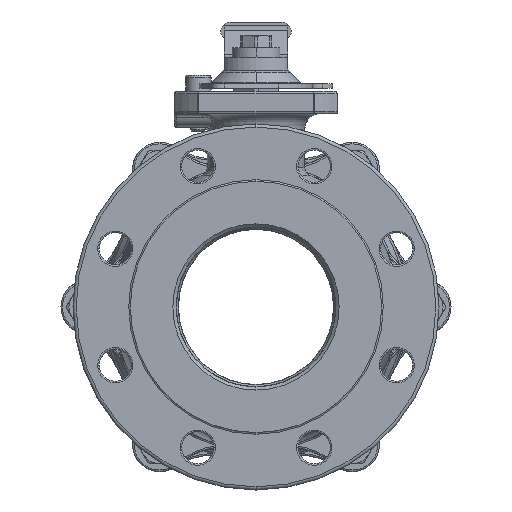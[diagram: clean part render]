
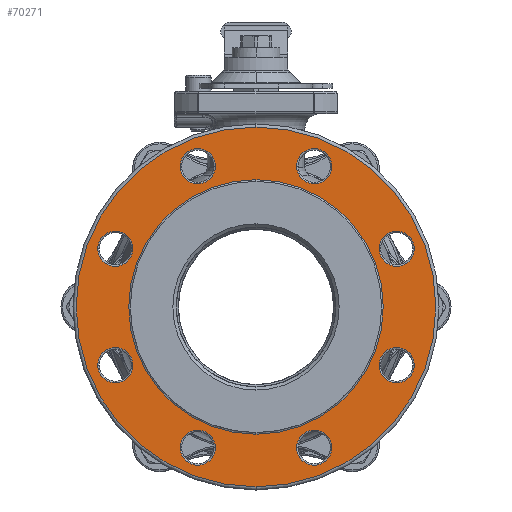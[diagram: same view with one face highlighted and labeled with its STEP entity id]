
A CAD part, left-side view. The second image highlights one B-rep face of the part: STEP entity #70271.
In plain terms, the highlighted planar face has unit normal (-1, 0, 0).
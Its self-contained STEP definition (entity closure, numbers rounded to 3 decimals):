
#10907=CARTESIAN_POINT('',(-81.4,0.,0.));
#10908=DIRECTION('',(1.,0.,0.));
#10909=DIRECTION('',(0.,0.,1.));
#10910=AXIS2_PLACEMENT_3D('',#10907,#10908,#10909);
#10922=CARTESIAN_POINT('',(-81.4,0.,0.));
#10923=DIRECTION('',(1.,0.,0.));
#10924=DIRECTION('',(0.,0.,-1.));
#10925=AXIS2_PLACEMENT_3D('',#10922,#10923,#10924);
#10940=CARTESIAN_POINT('',(-81.4,88.,36.451));
#10941=DIRECTION('',(1.,0.,0.));
#10942=DIRECTION('',(0.,1.,0.));
#10943=AXIS2_PLACEMENT_3D('',#10940,#10941,#10942);
#10955=CARTESIAN_POINT('',(-81.4,88.,36.451));
#10956=DIRECTION('',(1.,0.,0.));
#10957=DIRECTION('',(0.,-1.,0.));
#10958=AXIS2_PLACEMENT_3D('',#10955,#10956,#10957);
#11008=CARTESIAN_POINT('',(-81.4,36.451,88.));
#11009=DIRECTION('',(1.,0.,0.));
#11010=DIRECTION('',(0.,-1.,0.));
#11011=AXIS2_PLACEMENT_3D('',#11008,#11009,#11010);
#11023=CARTESIAN_POINT('',(-81.4,36.451,88.));
#11024=DIRECTION('',(1.,0.,0.));
#11025=DIRECTION('',(0.,1.,0.));
#11026=AXIS2_PLACEMENT_3D('',#11023,#11024,#11025);
#11076=CARTESIAN_POINT('',(-81.4,-36.451,88.));
#11077=DIRECTION('',(1.,0.,0.));
#11078=DIRECTION('',(0.,-1.,0.));
#11079=AXIS2_PLACEMENT_3D('',#11076,#11077,#11078);
#11091=CARTESIAN_POINT('',(-81.4,-36.451,88.));
#11092=DIRECTION('',(1.,0.,0.));
#11093=DIRECTION('',(0.,1.,0.));
#11094=AXIS2_PLACEMENT_3D('',#11091,#11092,#11093);
#11144=CARTESIAN_POINT('',(-81.4,-88.,36.451));
#11145=DIRECTION('',(1.,0.,0.));
#11146=DIRECTION('',(0.,-1.,0.));
#11147=AXIS2_PLACEMENT_3D('',#11144,#11145,#11146);
#11159=CARTESIAN_POINT('',(-81.4,-88.,36.451));
#11160=DIRECTION('',(1.,0.,0.));
#11161=DIRECTION('',(0.,1.,0.));
#11162=AXIS2_PLACEMENT_3D('',#11159,#11160,#11161);
#11212=CARTESIAN_POINT('',(-81.4,-88.,-36.451));
#11213=DIRECTION('',(1.,0.,0.));
#11214=DIRECTION('',(0.,-1.,0.));
#11215=AXIS2_PLACEMENT_3D('',#11212,#11213,#11214);
#11227=CARTESIAN_POINT('',(-81.4,-88.,-36.451));
#11228=DIRECTION('',(1.,0.,0.));
#11229=DIRECTION('',(0.,1.,0.));
#11230=AXIS2_PLACEMENT_3D('',#11227,#11228,#11229);
#11280=CARTESIAN_POINT('',(-81.4,-36.451,-88.));
#11281=DIRECTION('',(1.,0.,0.));
#11282=DIRECTION('',(0.,1.,0.));
#11283=AXIS2_PLACEMENT_3D('',#11280,#11281,#11282);
#11295=CARTESIAN_POINT('',(-81.4,-36.451,-88.));
#11296=DIRECTION('',(1.,0.,0.));
#11297=DIRECTION('',(0.,-1.,0.));
#11298=AXIS2_PLACEMENT_3D('',#11295,#11296,#11297);
#11348=CARTESIAN_POINT('',(-81.4,36.451,-88.));
#11349=DIRECTION('',(1.,0.,0.));
#11350=DIRECTION('',(0.,1.,0.));
#11351=AXIS2_PLACEMENT_3D('',#11348,#11349,#11350);
#11363=CARTESIAN_POINT('',(-81.4,36.451,-88.));
#11364=DIRECTION('',(1.,0.,0.));
#11365=DIRECTION('',(0.,-1.,0.));
#11366=AXIS2_PLACEMENT_3D('',#11363,#11364,#11365);
#11416=CARTESIAN_POINT('',(-81.4,88.,-36.451));
#11417=DIRECTION('',(1.,0.,0.));
#11418=DIRECTION('',(0.,1.,0.));
#11419=AXIS2_PLACEMENT_3D('',#11416,#11417,#11418);
#11431=CARTESIAN_POINT('',(-81.4,88.,-36.451));
#11432=DIRECTION('',(1.,0.,0.));
#11433=DIRECTION('',(0.,-1.,0.));
#11434=AXIS2_PLACEMENT_3D('',#11431,#11432,#11433);
#11484=CARTESIAN_POINT('',(-81.4,0.,0.));
#11485=DIRECTION('',(-1.,0.,0.));
#11486=DIRECTION('',(0.,0.,1.));
#11487=AXIS2_PLACEMENT_3D('',#11484,#11485,#11486);
#11499=CARTESIAN_POINT('',(-81.4,0.,0.));
#11500=DIRECTION('',(-1.,0.,0.));
#11501=DIRECTION('',(0.,0.,-1.));
#11502=AXIS2_PLACEMENT_3D('',#11499,#11500,#11501);
#45163=CARTESIAN_POINT('',(-81.4,0.,-112.5));
#45164=CARTESIAN_POINT('',(-81.4,0.,112.5));
#45165=VERTEX_POINT('',#45163);
#45166=VERTEX_POINT('',#45164);
#45175=CARTESIAN_POINT('',(-81.4,99.,36.451));
#45176=CARTESIAN_POINT('',(-81.4,77.,36.451));
#45177=VERTEX_POINT('',#45175);
#45178=VERTEX_POINT('',#45176);
#45191=CARTESIAN_POINT('',(-81.4,25.451,88.));
#45192=CARTESIAN_POINT('',(-81.4,47.451,88.));
#45193=VERTEX_POINT('',#45191);
#45194=VERTEX_POINT('',#45192);
#45207=CARTESIAN_POINT('',(-81.4,-47.451,88.));
#45208=CARTESIAN_POINT('',(-81.4,-25.451,88.));
#45209=VERTEX_POINT('',#45207);
#45210=VERTEX_POINT('',#45208);
#45223=CARTESIAN_POINT('',(-81.4,-99.,36.451));
#45224=CARTESIAN_POINT('',(-81.4,-77.,36.451));
#45225=VERTEX_POINT('',#45223);
#45226=VERTEX_POINT('',#45224);
#45239=CARTESIAN_POINT('',(-81.4,-99.,-36.451));
#45240=CARTESIAN_POINT('',(-81.4,-77.,-36.451));
#45241=VERTEX_POINT('',#45239);
#45242=VERTEX_POINT('',#45240);
#45263=CARTESIAN_POINT('',(-81.4,-25.451,-88.));
#45264=CARTESIAN_POINT('',(-81.4,-47.451,-88.));
#45265=VERTEX_POINT('',#45263);
#45266=VERTEX_POINT('',#45264);
#45279=CARTESIAN_POINT('',(-81.4,47.451,-88.));
#45280=CARTESIAN_POINT('',(-81.4,25.451,-88.));
#45281=VERTEX_POINT('',#45279);
#45282=VERTEX_POINT('',#45280);
#45287=CARTESIAN_POINT('',(-81.4,99.,-36.451));
#45288=CARTESIAN_POINT('',(-81.4,77.,-36.451));
#45289=VERTEX_POINT('',#45287);
#45290=VERTEX_POINT('',#45288);
#45845=CARTESIAN_POINT('',(-81.4,0.,79.6));
#45846=CARTESIAN_POINT('',(-81.4,0.,-79.6));
#45847=VERTEX_POINT('',#45845);
#45848=VERTEX_POINT('',#45846);
#70208=CARTESIAN_POINT('',(-81.4,0.,0.));
#70209=DIRECTION('',(-1.,0.,0.));
#70210=DIRECTION('',(0.,0.,1.));
#70211=AXIS2_PLACEMENT_3D('',#70208,#70209,#70210);
#70212=PLANE('',#70211);
#70213=ORIENTED_EDGE('',*,*,#70190,.T.);
#70214=ORIENTED_EDGE('',*,*,#70175,.T.);
#70215=EDGE_LOOP('',(#70213,#70214));
#70216=FACE_OUTER_BOUND('',#70215,.F.);
#70218=ORIENTED_EDGE('',*,*,#70217,.F.);
#70220=ORIENTED_EDGE('',*,*,#70219,.F.);
#70221=EDGE_LOOP('',(#70218,#70220));
#70222=FACE_BOUND('',#70221,.F.);
#70224=ORIENTED_EDGE('',*,*,#70223,.F.);
#70226=ORIENTED_EDGE('',*,*,#70225,.F.);
#70227=EDGE_LOOP('',(#70224,#70226));
#70228=FACE_BOUND('',#70227,.F.);
#70230=ORIENTED_EDGE('',*,*,#70229,.F.);
#70232=ORIENTED_EDGE('',*,*,#70231,.F.);
#70233=EDGE_LOOP('',(#70230,#70232));
#70234=FACE_BOUND('',#70233,.F.);
#70236=ORIENTED_EDGE('',*,*,#70235,.F.);
#70238=ORIENTED_EDGE('',*,*,#70237,.F.);
#70239=EDGE_LOOP('',(#70236,#70238));
#70240=FACE_BOUND('',#70239,.F.);
#70242=ORIENTED_EDGE('',*,*,#70241,.F.);
#70244=ORIENTED_EDGE('',*,*,#70243,.F.);
#70245=EDGE_LOOP('',(#70242,#70244));
#70246=FACE_BOUND('',#70245,.F.);
#70248=ORIENTED_EDGE('',*,*,#70247,.F.);
#70250=ORIENTED_EDGE('',*,*,#70249,.F.);
#70251=EDGE_LOOP('',(#70248,#70250));
#70252=FACE_BOUND('',#70251,.F.);
#70254=ORIENTED_EDGE('',*,*,#70253,.F.);
#70256=ORIENTED_EDGE('',*,*,#70255,.F.);
#70257=EDGE_LOOP('',(#70254,#70256));
#70258=FACE_BOUND('',#70257,.F.);
#70260=ORIENTED_EDGE('',*,*,#70259,.F.);
#70262=ORIENTED_EDGE('',*,*,#70261,.F.);
#70263=EDGE_LOOP('',(#70260,#70262));
#70264=FACE_BOUND('',#70263,.F.);
#70266=ORIENTED_EDGE('',*,*,#70265,.T.);
#70268=ORIENTED_EDGE('',*,*,#70267,.T.);
#70269=EDGE_LOOP('',(#70266,#70268));
#70270=FACE_BOUND('',#70269,.F.);
#70271=ADVANCED_FACE('',(#70216,#70222,#70228,#70234,#70240,#70246,#70252,
#70258,#70264,#70270),#70212,.T.);
#10911=CIRCLE('',#10910,112.5);
#10926=CIRCLE('',#10925,112.5);
#10944=CIRCLE('',#10943,11.);
#10959=CIRCLE('',#10958,11.);
#11012=CIRCLE('',#11011,11.);
#11027=CIRCLE('',#11026,11.);
#11080=CIRCLE('',#11079,11.);
#11095=CIRCLE('',#11094,11.);
#11148=CIRCLE('',#11147,11.);
#11163=CIRCLE('',#11162,11.);
#11216=CIRCLE('',#11215,11.);
#11231=CIRCLE('',#11230,11.);
#11284=CIRCLE('',#11283,11.);
#11299=CIRCLE('',#11298,11.);
#11352=CIRCLE('',#11351,11.);
#11367=CIRCLE('',#11366,11.);
#11420=CIRCLE('',#11419,11.);
#11435=CIRCLE('',#11434,11.);
#11488=CIRCLE('',#11487,79.6);
#11503=CIRCLE('',#11502,79.6);
#70175=EDGE_CURVE('',#45166,#45165,#10911,.T.);
#70190=EDGE_CURVE('',#45165,#45166,#10926,.T.);
#70217=EDGE_CURVE('',#45177,#45178,#10944,.T.);
#70219=EDGE_CURVE('',#45178,#45177,#10959,.T.);
#70223=EDGE_CURVE('',#45193,#45194,#11012,.T.);
#70225=EDGE_CURVE('',#45194,#45193,#11027,.T.);
#70229=EDGE_CURVE('',#45209,#45210,#11080,.T.);
#70231=EDGE_CURVE('',#45210,#45209,#11095,.T.);
#70235=EDGE_CURVE('',#45225,#45226,#11148,.T.);
#70237=EDGE_CURVE('',#45226,#45225,#11163,.T.);
#70241=EDGE_CURVE('',#45241,#45242,#11216,.T.);
#70243=EDGE_CURVE('',#45242,#45241,#11231,.T.);
#70247=EDGE_CURVE('',#45265,#45266,#11284,.T.);
#70249=EDGE_CURVE('',#45266,#45265,#11299,.T.);
#70253=EDGE_CURVE('',#45281,#45282,#11352,.T.);
#70255=EDGE_CURVE('',#45282,#45281,#11367,.T.);
#70259=EDGE_CURVE('',#45289,#45290,#11420,.T.);
#70261=EDGE_CURVE('',#45290,#45289,#11435,.T.);
#70265=EDGE_CURVE('',#45847,#45848,#11488,.T.);
#70267=EDGE_CURVE('',#45848,#45847,#11503,.T.);
